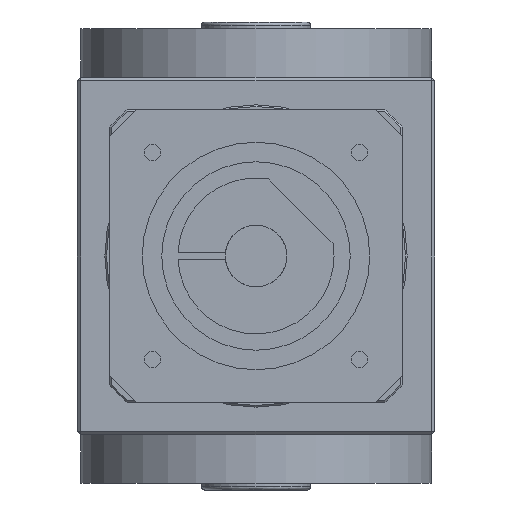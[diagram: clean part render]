
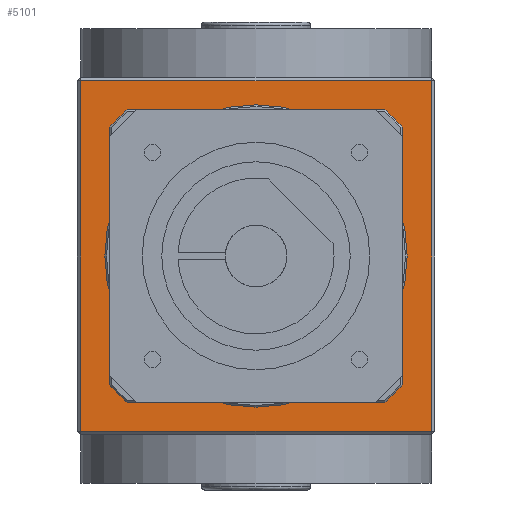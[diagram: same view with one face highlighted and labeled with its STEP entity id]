
A CAD part, front view. The second image highlights one B-rep face of the part: STEP entity #5101.
In plain terms, the highlighted planar face has unit normal (0, -1, 0).
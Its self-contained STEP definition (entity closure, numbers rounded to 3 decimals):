
#166 = ORIENTED_EDGE ( 'NONE', *, *, #14351, .T. ) ;
#171 = VERTEX_POINT ( 'NONE', #1774 ) ;
#172 = CARTESIAN_POINT ( 'NONE',  ( 39.686, -55., -45. ) ) ;
#273 = LINE ( 'NONE', #4192, #12760 ) ;
#462 = VERTEX_POINT ( 'NONE', #172 ) ;
#668 = VERTEX_POINT ( 'NONE', #3248 ) ;
#892 = VERTEX_POINT ( 'NONE', #15435 ) ;
#1122 = CARTESIAN_POINT ( 'NONE',  ( 45., -55., -55. ) ) ;
#1131 = AXIS2_PLACEMENT_3D ( 'NONE', #1752, #4002, #10424 ) ;
#1233 = DIRECTION ( 'NONE',  ( -1., 0., 0. ) ) ;
#1404 = ORIENTED_EDGE ( 'NONE', *, *, #11074, .T. ) ;
#1752 = CARTESIAN_POINT ( 'NONE',  ( -55., -55., -55. ) ) ;
#1774 = CARTESIAN_POINT ( 'NONE',  ( -54., -55., -54. ) ) ;
#2146 = CIRCLE ( 'NONE', #6388, 60. ) ;
#2368 = CARTESIAN_POINT ( 'NONE',  ( 0., -55., 0. ) ) ;
#2386 = CARTESIAN_POINT ( 'NONE',  ( 45., -55., 39.686 ) ) ;
#2888 = LINE ( 'NONE', #15918, #8668 ) ;
#2932 = CIRCLE ( 'NONE', #7980, 60. ) ;
#2938 = CARTESIAN_POINT ( 'NONE',  ( -55., -55., -54. ) ) ;
#2948 = DIRECTION ( 'NONE',  ( 0., 1., 0. ) ) ;
#3027 = DIRECTION ( 'NONE',  ( 0., 0., 1. ) ) ;
#3067 = LINE ( 'NONE', #14602, #8388 ) ;
#3188 = VECTOR ( 'NONE', #11129, 1000. ) ;
#3248 = CARTESIAN_POINT ( 'NONE',  ( 45., -55., -39.686 ) ) ;
#3283 = VERTEX_POINT ( 'NONE', #7450 ) ;
#3390 = DIRECTION ( 'NONE',  ( 0., 0., 1. ) ) ;
#3533 = CARTESIAN_POINT ( 'NONE',  ( 0., -55., 0. ) ) ;
#3935 = VERTEX_POINT ( 'NONE', #7970 ) ;
#4002 = DIRECTION ( 'NONE',  ( 0., -1., 0. ) ) ;
#4110 = CARTESIAN_POINT ( 'NONE',  ( 0., -55., 0. ) ) ;
#4192 = CARTESIAN_POINT ( 'NONE',  ( -45., -55., -55. ) ) ;
#4262 = DIRECTION ( 'NONE',  ( 1., 0., 0. ) ) ;
#4636 = ORIENTED_EDGE ( 'NONE', *, *, #10914, .T. ) ;
#4835 = CARTESIAN_POINT ( 'NONE',  ( 54., -55., -54. ) ) ;
#5101 = ADVANCED_FACE ( 'NONE', ( #8075, #13192 ), #11602, .T. ) ;
#5447 = AXIS2_PLACEMENT_3D ( 'NONE', #2368, #10032, #12461 ) ;
#5764 = CARTESIAN_POINT ( 'NONE',  ( -39.686, -55., 45. ) ) ;
#5957 = EDGE_CURVE ( 'NONE', #11125, #10031, #9859, .T. ) ;
#6018 = DIRECTION ( 'NONE',  ( 0., 0., -1. ) ) ;
#6359 = LINE ( 'NONE', #10198, #3188 ) ;
#6388 = AXIS2_PLACEMENT_3D ( 'NONE', #3533, #16235, #14731 ) ;
#6416 = CIRCLE ( 'NONE', #12816, 60. ) ;
#6524 = CARTESIAN_POINT ( 'NONE',  ( -54., -55., 54. ) ) ;
#6664 = ORIENTED_EDGE ( 'NONE', *, *, #8556, .T. ) ;
#6981 = DIRECTION ( 'NONE',  ( 0., 0., 1. ) ) ;
#7450 = CARTESIAN_POINT ( 'NONE',  ( -45., -55., 39.686 ) ) ;
#7755 = VECTOR ( 'NONE', #1233, 1000. ) ;
#7912 = VERTEX_POINT ( 'NONE', #2386 ) ;
#7957 = ORIENTED_EDGE ( 'NONE', *, *, #9252, .T. ) ;
#7963 = DIRECTION ( 'NONE',  ( 0., 0., -1. ) ) ;
#7970 = CARTESIAN_POINT ( 'NONE',  ( -45., -55., -39.686 ) ) ;
#7980 = AXIS2_PLACEMENT_3D ( 'NONE', #4110, #2948, #3027 ) ;
#8075 = FACE_OUTER_BOUND ( 'NONE', #9296, .T. ) ;
#8388 = VECTOR ( 'NONE', #6981, 1000. ) ;
#8556 = EDGE_CURVE ( 'NONE', #12654, #12621, #3067, .T. ) ;
#8668 = VECTOR ( 'NONE', #7963, 1000. ) ;
#8843 = EDGE_CURVE ( 'NONE', #12087, #171, #2888, .T. ) ;
#9202 = DIRECTION ( 'NONE',  ( 0., 0., 1. ) ) ;
#9252 = EDGE_CURVE ( 'NONE', #668, #462, #2932, .T. ) ;
#9296 = EDGE_LOOP ( 'NONE', ( #1404, #6664, #4636, #15539 ) ) ;
#9362 = EDGE_CURVE ( 'NONE', #3283, #11125, #2146, .T. ) ;
#9782 = LINE ( 'NONE', #1122, #12130 ) ;
#9809 = DIRECTION ( 'NONE',  ( 0., 1., 0. ) ) ;
#9859 = LINE ( 'NONE', #14721, #15546 ) ;
#9998 = CARTESIAN_POINT ( 'NONE',  ( 39.686, -55., 45. ) ) ;
#10031 = VERTEX_POINT ( 'NONE', #9998 ) ;
#10032 = DIRECTION ( 'NONE',  ( 0., 1., 0. ) ) ;
#10198 = CARTESIAN_POINT ( 'NONE',  ( -55., -55., 54. ) ) ;
#10307 = EDGE_CURVE ( 'NONE', #10031, #7912, #6416, .T. ) ;
#10400 = EDGE_CURVE ( 'NONE', #462, #892, #13999, .T. ) ;
#10424 = DIRECTION ( 'NONE',  ( 0., 0., -1. ) ) ;
#10516 = CIRCLE ( 'NONE', #5447, 60. ) ;
#10914 = EDGE_CURVE ( 'NONE', #12621, #12087, #6359, .T. ) ;
#11058 = CARTESIAN_POINT ( 'NONE',  ( 0., -55., 0. ) ) ;
#11074 = EDGE_CURVE ( 'NONE', #171, #12654, #14384, .T. ) ;
#11089 = CARTESIAN_POINT ( 'NONE',  ( 54., -55., 54. ) ) ;
#11125 = VERTEX_POINT ( 'NONE', #5764 ) ;
#11129 = DIRECTION ( 'NONE',  ( -1., 0., 0. ) ) ;
#11185 = ORIENTED_EDGE ( 'NONE', *, *, #10400, .T. ) ;
#11211 = ORIENTED_EDGE ( 'NONE', *, *, #14419, .T. ) ;
#11602 = PLANE ( 'NONE',  #1131 ) ;
#12087 = VERTEX_POINT ( 'NONE', #6524 ) ;
#12130 = VECTOR ( 'NONE', #6018, 1000. ) ;
#12269 = EDGE_LOOP ( 'NONE', ( #166, #7957, #11185, #11211, #12418, #15753, #14780, #15290 ) ) ;
#12369 = DIRECTION ( 'NONE',  ( 1., 0., 0. ) ) ;
#12418 = ORIENTED_EDGE ( 'NONE', *, *, #15936, .T. ) ;
#12461 = DIRECTION ( 'NONE',  ( 0., 0., 1. ) ) ;
#12621 = VERTEX_POINT ( 'NONE', #11089 ) ;
#12654 = VERTEX_POINT ( 'NONE', #4835 ) ;
#12661 = CARTESIAN_POINT ( 'NONE',  ( -55., -55., -45. ) ) ;
#12760 = VECTOR ( 'NONE', #9202, 1000. ) ;
#12816 = AXIS2_PLACEMENT_3D ( 'NONE', #11058, #9809, #3390 ) ;
#13192 = FACE_BOUND ( 'NONE', #12269, .T. ) ;
#13603 = VECTOR ( 'NONE', #4262, 1000. ) ;
#13999 = LINE ( 'NONE', #12661, #7755 ) ;
#14351 = EDGE_CURVE ( 'NONE', #7912, #668, #9782, .T. ) ;
#14384 = LINE ( 'NONE', #2938, #13603 ) ;
#14419 = EDGE_CURVE ( 'NONE', #892, #3935, #10516, .T. ) ;
#14602 = CARTESIAN_POINT ( 'NONE',  ( 54., -55., -55. ) ) ;
#14721 = CARTESIAN_POINT ( 'NONE',  ( -55., -55., 45. ) ) ;
#14731 = DIRECTION ( 'NONE',  ( 0., 0., 1. ) ) ;
#14780 = ORIENTED_EDGE ( 'NONE', *, *, #5957, .T. ) ;
#15290 = ORIENTED_EDGE ( 'NONE', *, *, #10307, .T. ) ;
#15435 = CARTESIAN_POINT ( 'NONE',  ( -39.686, -55., -45. ) ) ;
#15539 = ORIENTED_EDGE ( 'NONE', *, *, #8843, .T. ) ;
#15546 = VECTOR ( 'NONE', #12369, 1000. ) ;
#15753 = ORIENTED_EDGE ( 'NONE', *, *, #9362, .T. ) ;
#15918 = CARTESIAN_POINT ( 'NONE',  ( -54., -55., -55. ) ) ;
#15936 = EDGE_CURVE ( 'NONE', #3935, #3283, #273, .T. ) ;
#16235 = DIRECTION ( 'NONE',  ( 0., 1., 0. ) ) ;
